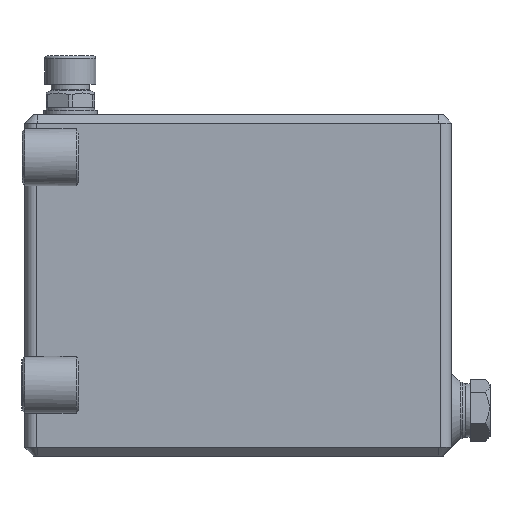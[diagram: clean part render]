
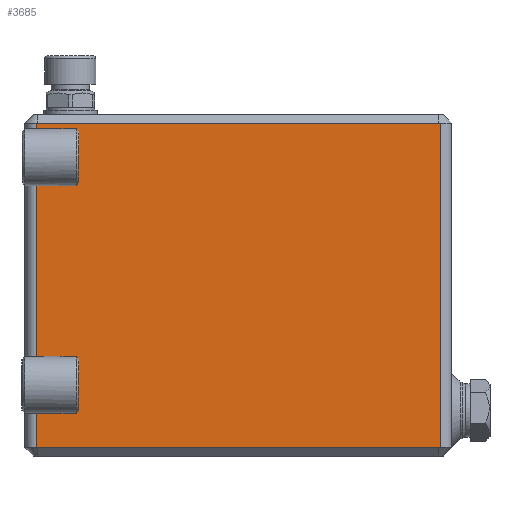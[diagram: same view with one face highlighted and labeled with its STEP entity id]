
A CAD part, left-side view. The second image highlights one B-rep face of the part: STEP entity #3685.
In plain terms, the highlighted planar face has unit normal (-1, 0, 0).
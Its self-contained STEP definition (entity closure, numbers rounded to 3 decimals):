
#72=LINE('',#7799,#291);
#74=LINE('',#7803,#293);
#75=LINE('',#7805,#294);
#77=LINE('',#7809,#296);
#78=LINE('',#7811,#297);
#80=LINE('',#7815,#299);
#81=LINE('',#7817,#300);
#83=LINE('',#7821,#302);
#84=LINE('',#7823,#303);
#85=LINE('',#7825,#304);
#87=LINE('',#7833,#306);
#88=LINE('',#7834,#307);
#89=LINE('',#7836,#308);
#112=LINE('',#7885,#331);
#113=LINE('',#7887,#332);
#121=LINE('',#7941,#340);
#123=LINE('',#7944,#342);
#124=LINE('',#7946,#343);
#291=VECTOR('',#6612,1000.);
#293=VECTOR('',#6616,1000.);
#294=VECTOR('',#6619,1000.);
#296=VECTOR('',#6623,1000.);
#297=VECTOR('',#6626,1000.);
#299=VECTOR('',#6630,1000.);
#300=VECTOR('',#6633,1000.);
#302=VECTOR('',#6637,1000.);
#303=VECTOR('',#6640,1000.);
#304=VECTOR('',#6643,1000.);
#306=VECTOR('',#6649,1000.);
#307=VECTOR('',#6650,1000.);
#308=VECTOR('',#6653,1000.);
#331=VECTOR('',#6708,1000.);
#332=VECTOR('',#6711,1000.);
#340=VECTOR('',#6775,1000.);
#342=VECTOR('',#6779,1000.);
#343=VECTOR('',#6780,1000.);
#1043=ORIENTED_EDGE('',*,*,#1742,.T.);
#1044=ORIENTED_EDGE('',*,*,#1741,.T.);
#1045=ORIENTED_EDGE('',*,*,#1740,.T.);
#1046=ORIENTED_EDGE('',*,*,#1738,.T.);
#1047=ORIENTED_EDGE('',*,*,#1737,.T.);
#1048=ORIENTED_EDGE('',*,*,#1747,.T.);
#1049=ORIENTED_EDGE('',*,*,#1735,.T.);
#1050=ORIENTED_EDGE('',*,*,#1734,.T.);
#1051=ORIENTED_EDGE('',*,*,#1732,.T.);
#1052=ORIENTED_EDGE('',*,*,#1731,.T.);
#1053=ORIENTED_EDGE('',*,*,#1746,.T.);
#1054=ORIENTED_EDGE('',*,*,#1748,.F.);
#1055=ORIENTED_EDGE('',*,*,#1729,.F.);
#1056=ORIENTED_EDGE('',*,*,#1774,.F.);
#1057=ORIENTED_EDGE('',*,*,#1775,.T.);
#1058=ORIENTED_EDGE('',*,*,#1797,.F.);
#1059=ORIENTED_EDGE('',*,*,#1799,.F.);
#1060=ORIENTED_EDGE('',*,*,#1800,.F.);
#1729=EDGE_CURVE('',#2163,#2131,#72,.T.);
#1731=EDGE_CURVE('',#2173,#2130,#74,.T.);
#1732=EDGE_CURVE('',#2116,#2173,#75,.T.);
#1734=EDGE_CURVE('',#2174,#2116,#77,.T.);
#1735=EDGE_CURVE('',#2129,#2174,#78,.T.);
#1737=EDGE_CURVE('',#2175,#2128,#80,.T.);
#1738=EDGE_CURVE('',#2122,#2175,#81,.T.);
#1740=EDGE_CURVE('',#2176,#2122,#83,.T.);
#1741=EDGE_CURVE('',#2127,#2176,#84,.T.);
#1742=EDGE_CURVE('',#2177,#2127,#85,.T.);
#1746=EDGE_CURVE('',#2130,#2180,#87,.T.);
#1747=EDGE_CURVE('',#2128,#2129,#88,.T.);
#1748=EDGE_CURVE('',#2131,#2180,#89,.T.);
#1774=EDGE_CURVE('',#2190,#2163,#112,.T.);
#1775=EDGE_CURVE('',#2190,#2191,#113,.T.);
#1797=EDGE_CURVE('',#2207,#2191,#121,.T.);
#1799=EDGE_CURVE('',#2209,#2207,#123,.T.);
#1800=EDGE_CURVE('',#2177,#2209,#124,.T.);
#2116=VERTEX_POINT('',#7638);
#2122=VERTEX_POINT('',#7653);
#2127=VERTEX_POINT('',#7667);
#2128=VERTEX_POINT('',#7671);
#2129=VERTEX_POINT('',#7675);
#2130=VERTEX_POINT('',#7679);
#2131=VERTEX_POINT('',#7683);
#2163=VERTEX_POINT('',#7768);
#2173=VERTEX_POINT('',#7802);
#2174=VERTEX_POINT('',#7808);
#2175=VERTEX_POINT('',#7814);
#2176=VERTEX_POINT('',#7820);
#2177=VERTEX_POINT('',#7826);
#2180=VERTEX_POINT('',#7832);
#2190=VERTEX_POINT('',#7884);
#2191=VERTEX_POINT('',#7888);
#2207=VERTEX_POINT('',#7939);
#2209=VERTEX_POINT('',#7945);
#2841=EDGE_LOOP('',(#1043,#1044,#1045,#1046,#1047,#1048,#1049,#1050,#1051,
#1052,#1053,#1054,#1055,#1056,#1057,#1058,#1059,#1060));
#3243=FACE_BOUND('',#2841,.T.);
#3486=PLANE('',#5883);
#3685=ADVANCED_FACE('',(#3243),#3486,.F.);
#5883=AXIS2_PLACEMENT_3D('',#7943,#6777,#6778);
#6612=DIRECTION('',(0.,1.,0.));
#6616=DIRECTION('',(0.,1.,0.));
#6619=DIRECTION('',(0.,0.,-1.));
#6623=DIRECTION('',(0.,0.,-1.));
#6626=DIRECTION('',(0.,-1.,0.));
#6630=DIRECTION('',(0.,1.,0.));
#6633=DIRECTION('',(0.,0.,-1.));
#6637=DIRECTION('',(0.,0.,-1.));
#6640=DIRECTION('',(0.,-1.,0.));
#6643=DIRECTION('',(0.,0.,-1.));
#6649=DIRECTION('',(0.,0.,-1.));
#6650=DIRECTION('',(0.,0.,-1.));
#6653=DIRECTION('',(0.,1.,0.));
#6708=DIRECTION('',(0.,1.,0.));
#6711=DIRECTION('',(0.,0.,1.));
#6775=DIRECTION('',(0.,-1.,0.));
#6777=DIRECTION('',(1.,0.,0.));
#6778=DIRECTION('',(0.,1.,0.));
#6779=DIRECTION('',(0.,-1.,0.));
#6780=DIRECTION('',(0.,-1.,0.));
#7638=CARTESIAN_POINT('',(-75.,57.,25.));
#7653=CARTESIAN_POINT('',(-75.,57.,105.));
#7667=CARTESIAN_POINT('',(-75.,71.,111.));
#7671=CARTESIAN_POINT('',(-75.,71.,99.));
#7675=CARTESIAN_POINT('',(-75.,71.,31.));
#7679=CARTESIAN_POINT('',(-75.,71.,19.));
#7683=CARTESIAN_POINT('',(-75.,70.5,3.));
#7768=CARTESIAN_POINT('',(-75.,-70.5,3.));
#7799=CARTESIAN_POINT('',(-75.,-75.,3.));
#7802=CARTESIAN_POINT('',(-75.,57.,19.));
#7803=CARTESIAN_POINT('',(-75.,57.,19.));
#7805=CARTESIAN_POINT('',(-75.,57.,60.));
#7808=CARTESIAN_POINT('',(-75.,57.,31.));
#7809=CARTESIAN_POINT('',(-75.,57.,60.));
#7811=CARTESIAN_POINT('',(-75.,71.,31.));
#7814=CARTESIAN_POINT('',(-75.,57.,99.));
#7815=CARTESIAN_POINT('',(-75.,57.,99.));
#7817=CARTESIAN_POINT('',(-75.,57.,60.));
#7820=CARTESIAN_POINT('',(-75.,57.,111.));
#7821=CARTESIAN_POINT('',(-75.,57.,60.));
#7823=CARTESIAN_POINT('',(-75.,71.,111.));
#7825=CARTESIAN_POINT('',(-75.,71.,117.));
#7826=CARTESIAN_POINT('',(-75.,71.,117.));
#7832=CARTESIAN_POINT('',(-75.,71.,3.));
#7833=CARTESIAN_POINT('',(-75.,71.,117.));
#7834=CARTESIAN_POINT('',(-75.,71.,117.));
#7836=CARTESIAN_POINT('',(-75.,-75.,3.));
#7884=CARTESIAN_POINT('',(-75.,-71.,3.));
#7885=CARTESIAN_POINT('',(-75.,-75.,3.));
#7887=CARTESIAN_POINT('',(-75.,-71.,3.));
#7888=CARTESIAN_POINT('',(-75.,-71.,117.));
#7939=CARTESIAN_POINT('',(-75.,-70.5,117.));
#7941=CARTESIAN_POINT('',(-75.,75.,117.));
#7943=CARTESIAN_POINT('',(-75.,0.,60.));
#7944=CARTESIAN_POINT('',(-75.,75.,117.));
#7945=CARTESIAN_POINT('',(-75.,70.5,117.));
#7946=CARTESIAN_POINT('',(-75.,75.,117.));
